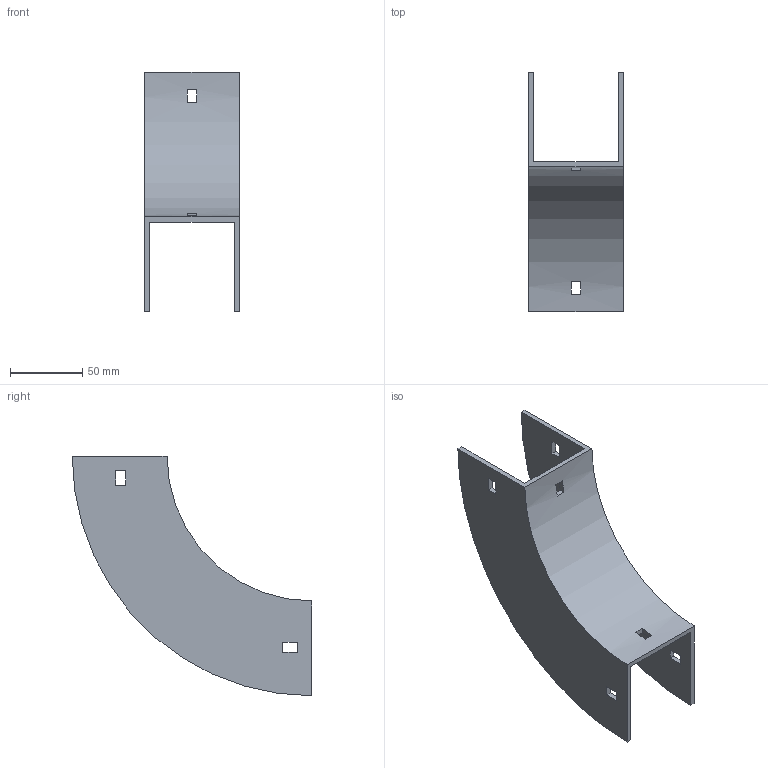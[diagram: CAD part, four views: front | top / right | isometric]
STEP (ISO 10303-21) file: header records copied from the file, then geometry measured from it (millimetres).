
FILE_DESCRIPTION (( 'STEP AP214' ), '1' );
FILE_NAME ('33B1H065.step', '2025-02-21T09:31:50', ( '' ), ( '' ), 'SwSTEP 2.0', 'SolidWorks 2023', '' );
FILE_SCHEMA (( 'AUTOMOTIVE_DESIGN' ));
Length unit declared in the file: millimetre
Products named in the file (1): 33B1H065
Bounding box: 65.5 x 165.5 x 165.5 mm (x, y, z)
Volume: 126937.6 mm3; surface area: 76358.9 mm2
Topology: 1 solids, 1 shells, 34 faces, 96 edges, 64 vertices
Faces by surface type: plane 30, cylinder 4
Entity records: 1143 total; most frequent: CARTESIAN_POINT 195, ORIENTED_EDGE 192, DIRECTION 182, EDGE_CURVE 96, LINE 80, VECTOR 80, VERTEX_POINT 64, AXIS2_PLACEMENT_3D 51
